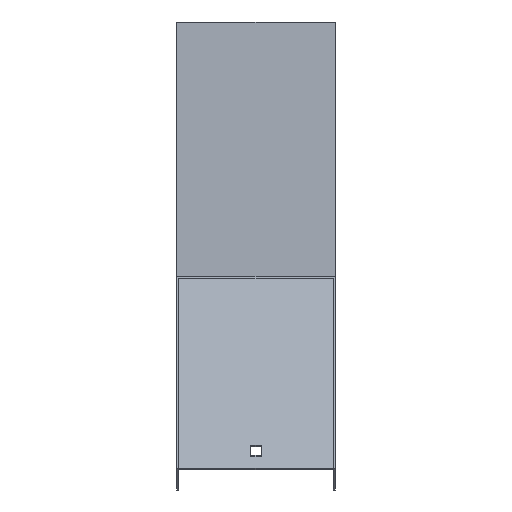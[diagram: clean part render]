
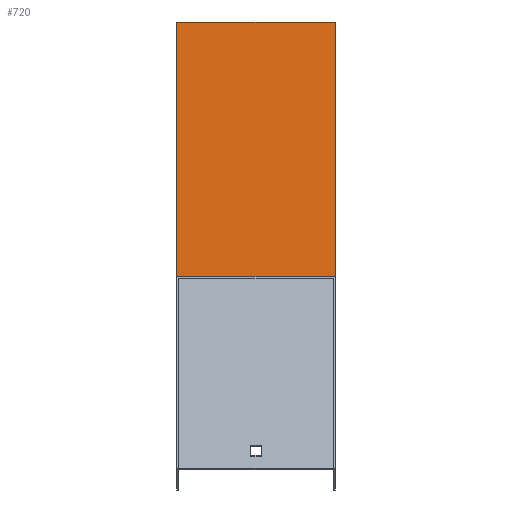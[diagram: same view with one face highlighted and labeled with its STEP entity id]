
A CAD part, top view. The second image highlights one B-rep face of the part: STEP entity #720.
In plain terms, the highlighted planar face has unit normal (0, 0.924, 0.383).
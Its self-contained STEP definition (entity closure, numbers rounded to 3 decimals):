
#17 = DIRECTION ( 'NONE',  ( 0., 0.383, -0.924 ) ) ;
#53 = LINE ( 'NONE', #305, #342 ) ;
#129 = CARTESIAN_POINT ( 'NONE',  ( 51.5, -146.068, 576.902 ) ) ;
#142 = DIRECTION ( 'NONE',  ( -1., 0., 0. ) ) ;
#152 = CARTESIAN_POINT ( 'NONE',  ( 51.5, 18.478, 179.654 ) ) ;
#214 = ORIENTED_EDGE ( 'NONE', *, *, #667, .T. ) ;
#221 = PLANE ( 'NONE',  #849 ) ;
#222 = VERTEX_POINT ( 'NONE', #647 ) ;
#223 = VECTOR ( 'NONE', #682, 1000. ) ;
#230 = LINE ( 'NONE', #492, #414 ) ;
#234 = EDGE_CURVE ( 'NONE', #672, #854, #53, .T. ) ;
#278 = FACE_OUTER_BOUND ( 'NONE', #395, .T. ) ;
#305 = CARTESIAN_POINT ( 'NONE',  ( 51.5, 18.478, 179.654 ) ) ;
#337 = VERTEX_POINT ( 'NONE', #553 ) ;
#342 = VECTOR ( 'NONE', #565, 1000. ) ;
#346 = LINE ( 'NONE', #743, #223 ) ;
#356 = LINE ( 'NONE', #734, #792 ) ;
#395 = EDGE_LOOP ( 'NONE', ( #602, #727, #552, #214 ) ) ;
#414 = VECTOR ( 'NONE', #607, 1000. ) ;
#488 = CARTESIAN_POINT ( 'NONE',  ( 51.5, 20., 175.978 ) ) ;
#492 = CARTESIAN_POINT ( 'NONE',  ( 51.5, 20., 175.978 ) ) ;
#552 = ORIENTED_EDGE ( 'NONE', *, *, #234, .F. ) ;
#553 = CARTESIAN_POINT ( 'NONE',  ( -51.5, -146.068, 576.902 ) ) ;
#565 = DIRECTION ( 'NONE',  ( 0., -0.383, 0.924 ) ) ;
#602 = ORIENTED_EDGE ( 'NONE', *, *, #713, .T. ) ;
#606 = EDGE_CURVE ( 'NONE', #854, #337, #356, .T. ) ;
#607 = DIRECTION ( 'NONE',  ( -1., 0., 0. ) ) ;
#611 = DIRECTION ( 'NONE',  ( 0., -0.924, -0.383 ) ) ;
#647 = CARTESIAN_POINT ( 'NONE',  ( -51.5, 20., 175.978 ) ) ;
#667 = EDGE_CURVE ( 'NONE', #672, #222, #230, .T. ) ;
#672 = VERTEX_POINT ( 'NONE', #488 ) ;
#682 = DIRECTION ( 'NONE',  ( 0., -0.383, 0.924 ) ) ;
#713 = EDGE_CURVE ( 'NONE', #222, #337, #346, .T. ) ;
#720 = ADVANCED_FACE ( 'NONE', ( #278 ), #221, .F. ) ;
#727 = ORIENTED_EDGE ( 'NONE', *, *, #606, .F. ) ;
#734 = CARTESIAN_POINT ( 'NONE',  ( 51.5, -146.068, 576.902 ) ) ;
#743 = CARTESIAN_POINT ( 'NONE',  ( -51.5, 18.478, 179.654 ) ) ;
#792 = VECTOR ( 'NONE', #142, 1000. ) ;
#849 = AXIS2_PLACEMENT_3D ( 'NONE', #152, #611, #17 ) ;
#854 = VERTEX_POINT ( 'NONE', #129 ) ;
